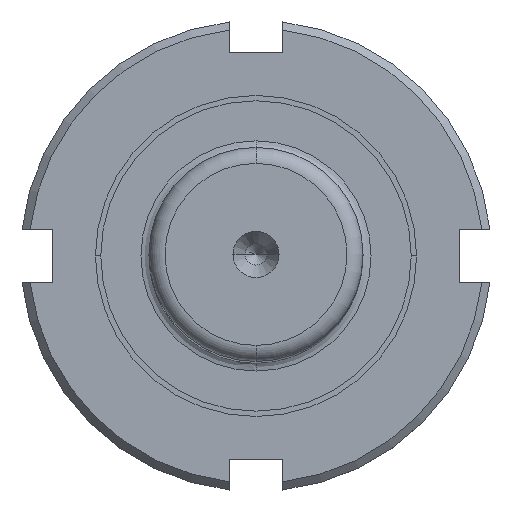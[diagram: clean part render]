
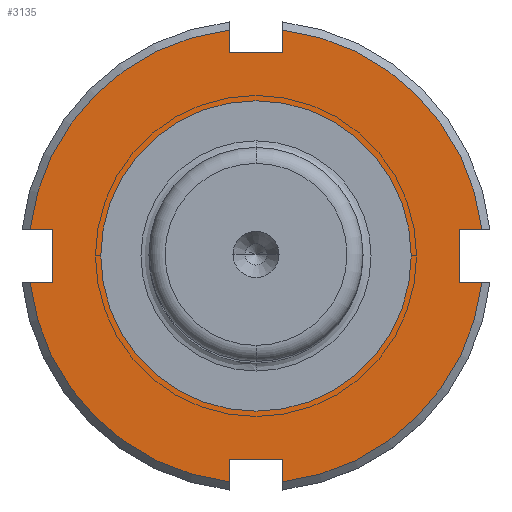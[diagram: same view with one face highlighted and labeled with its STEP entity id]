
A CAD part, top view. The second image highlights one B-rep face of the part: STEP entity #3135.
In plain terms, the highlighted planar face has unit normal (0, 0, 1).
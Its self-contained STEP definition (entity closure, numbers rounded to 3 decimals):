
#2227=CARTESIAN_POINT('',(0.0,14.5,26.0));
#2228=VERTEX_POINT('',#2227);
#2244=CARTESIAN_POINT('',(0.,-14.5,26.0));
#2245=VERTEX_POINT('',#2244);
#2252=CARTESIAN_POINT('',(0.0,0.0,26.0));
#2253=DIRECTION('',(0.0,0.0,-1.0));
#2254=DIRECTION('',(0.0,1.0,0.0));
#2255=AXIS2_PLACEMENT_3D('',#2252,#2253,#2254);
#2256=CIRCLE('',#2255,14.5);
#2257=EDGE_CURVE('',#2228,#2245,#2256,.T.);
#2292=CARTESIAN_POINT('',(-19.0,2.5,26.));
#2293=VERTEX_POINT('',#2292);
#2300=CARTESIAN_POINT('',(-21.102,2.5,26.0));
#2301=VERTEX_POINT('',#2300);
#2302=CARTESIAN_POINT('',(-21.102,2.5,26.0));
#2303=DIRECTION('',(1.0,0.0,0.0));
#2304=VECTOR('',#2303,2.102);
#2305=LINE('',#2302,#2304);
#2306=EDGE_CURVE('',#2301,#2293,#2305,.T.);
#2362=CARTESIAN_POINT('',(-21.102,-2.5,26.));
#2363=VERTEX_POINT('',#2362);
#2377=CARTESIAN_POINT('',(-19.0,-2.5,26.));
#2378=VERTEX_POINT('',#2377);
#2379=CARTESIAN_POINT('',(-19.0,-2.5,26.));
#2380=DIRECTION('',(-1.0,0.0,0.0));
#2381=VECTOR('',#2380,2.102);
#2382=LINE('',#2379,#2381);
#2383=EDGE_CURVE('',#2378,#2363,#2382,.T.);
#2414=CARTESIAN_POINT('',(-19.0,2.5,26.));
#2415=DIRECTION('',(0.0,-1.0,0.0));
#2416=VECTOR('',#2415,5.0);
#2417=LINE('',#2414,#2416);
#2418=EDGE_CURVE('',#2293,#2378,#2417,.T.);
#2454=CARTESIAN_POINT('',(-2.5,-19.0,26.0));
#2455=VERTEX_POINT('',#2454);
#2462=CARTESIAN_POINT('',(-2.5,-21.102,26.0));
#2463=VERTEX_POINT('',#2462);
#2464=CARTESIAN_POINT('',(-2.5,-21.102,26.0));
#2465=DIRECTION('',(0.0,1.0,0.0));
#2466=VECTOR('',#2465,2.102);
#2467=LINE('',#2464,#2466);
#2468=EDGE_CURVE('',#2463,#2455,#2467,.T.);
#2524=CARTESIAN_POINT('',(2.5,-21.102,26.0));
#2525=VERTEX_POINT('',#2524);
#2539=CARTESIAN_POINT('',(2.5,-19.0,26.0));
#2540=VERTEX_POINT('',#2539);
#2541=CARTESIAN_POINT('',(2.5,-19.0,26.0));
#2542=DIRECTION('',(0.0,-1.0,0.0));
#2543=VECTOR('',#2542,2.102);
#2544=LINE('',#2541,#2543);
#2545=EDGE_CURVE('',#2540,#2525,#2544,.T.);
#2576=CARTESIAN_POINT('',(-2.5,-19.0,26.0));
#2577=DIRECTION('',(1.0,0.0,0.0));
#2578=VECTOR('',#2577,5.0);
#2579=LINE('',#2576,#2578);
#2580=EDGE_CURVE('',#2455,#2540,#2579,.T.);
#2616=CARTESIAN_POINT('',(19.0,-2.5,26.));
#2617=VERTEX_POINT('',#2616);
#2624=CARTESIAN_POINT('',(21.102,-2.5,26.0));
#2625=VERTEX_POINT('',#2624);
#2626=CARTESIAN_POINT('',(21.102,-2.5,26.0));
#2627=DIRECTION('',(-1.0,0.0,0.0));
#2628=VECTOR('',#2627,2.102);
#2629=LINE('',#2626,#2628);
#2630=EDGE_CURVE('',#2625,#2617,#2629,.T.);
#2686=CARTESIAN_POINT('',(21.102,2.5,26.0));
#2687=VERTEX_POINT('',#2686);
#2701=CARTESIAN_POINT('',(19.0,2.5,26.));
#2702=VERTEX_POINT('',#2701);
#2703=CARTESIAN_POINT('',(19.0,2.5,26.));
#2704=DIRECTION('',(1.0,0.0,0.0));
#2705=VECTOR('',#2704,2.102);
#2706=LINE('',#2703,#2705);
#2707=EDGE_CURVE('',#2702,#2687,#2706,.T.);
#2738=CARTESIAN_POINT('',(19.0,-2.5,26.));
#2739=DIRECTION('',(0.0,1.0,0.0));
#2740=VECTOR('',#2739,5.0);
#2741=LINE('',#2738,#2740);
#2742=EDGE_CURVE('',#2617,#2702,#2741,.T.);
#2778=CARTESIAN_POINT('',(2.5,19.0,26.0));
#2779=VERTEX_POINT('',#2778);
#2786=CARTESIAN_POINT('',(2.5,21.102,26.0));
#2787=VERTEX_POINT('',#2786);
#2788=CARTESIAN_POINT('',(2.5,21.102,26.0));
#2789=DIRECTION('',(0.0,-1.0,0.0));
#2790=VECTOR('',#2789,2.102);
#2791=LINE('',#2788,#2790);
#2792=EDGE_CURVE('',#2787,#2779,#2791,.T.);
#2848=CARTESIAN_POINT('',(-2.5,21.102,26.0));
#2849=VERTEX_POINT('',#2848);
#2863=CARTESIAN_POINT('',(-2.5,19.0,26.0));
#2864=VERTEX_POINT('',#2863);
#2865=CARTESIAN_POINT('',(-2.5,19.0,26.0));
#2866=DIRECTION('',(0.0,1.0,0.0));
#2867=VECTOR('',#2866,2.102);
#2868=LINE('',#2865,#2867);
#2869=EDGE_CURVE('',#2864,#2849,#2868,.T.);
#2900=CARTESIAN_POINT('',(2.5,19.0,26.0));
#2901=DIRECTION('',(-1.0,0.0,0.0));
#2902=VECTOR('',#2901,5.0);
#2903=LINE('',#2900,#2902);
#2904=EDGE_CURVE('',#2779,#2864,#2903,.T.);
#3078=CARTESIAN_POINT('',(0.0,17.875,26.0));
#3079=DIRECTION('',(0.0,0.0,1.0));
#3080=DIRECTION('',(1.0,0.0,0.0));
#3081=AXIS2_PLACEMENT_3D('',#3078,#3079,#3080);
#3082=PLANE('',#3081);
#3083=ORIENTED_EDGE('',*,*,#2306,.T.);
#3084=ORIENTED_EDGE('',*,*,#2418,.T.);
#3085=ORIENTED_EDGE('',*,*,#2383,.T.);
#3086=CARTESIAN_POINT('',(0.0,0.0,26.0));
#3087=DIRECTION('',(0.0,0.0,-1.0));
#3088=DIRECTION('',(0.0,1.0,0.0));
#3089=AXIS2_PLACEMENT_3D('',#3086,#3087,#3088);
#3090=CIRCLE('',#3089,21.25);
#3091=EDGE_CURVE('',#2463,#2363,#3090,.T.);
#3092=ORIENTED_EDGE('',*,*,#3091,.F.);
#3093=ORIENTED_EDGE('',*,*,#2468,.T.);
#3094=ORIENTED_EDGE('',*,*,#2580,.T.);
#3095=ORIENTED_EDGE('',*,*,#2545,.T.);
#3096=CARTESIAN_POINT('',(0.0,0.0,26.0));
#3097=DIRECTION('',(0.0,0.0,-1.0));
#3098=DIRECTION('',(0.0,1.0,0.0));
#3099=AXIS2_PLACEMENT_3D('',#3096,#3097,#3098);
#3100=CIRCLE('',#3099,21.25);
#3101=EDGE_CURVE('',#2625,#2525,#3100,.T.);
#3102=ORIENTED_EDGE('',*,*,#3101,.F.);
#3103=ORIENTED_EDGE('',*,*,#2630,.T.);
#3104=ORIENTED_EDGE('',*,*,#2742,.T.);
#3105=ORIENTED_EDGE('',*,*,#2707,.T.);
#3106=CARTESIAN_POINT('',(0.0,0.0,26.0));
#3107=DIRECTION('',(0.0,0.0,-1.0));
#3108=DIRECTION('',(0.0,1.0,0.0));
#3109=AXIS2_PLACEMENT_3D('',#3106,#3107,#3108);
#3110=CIRCLE('',#3109,21.25);
#3111=EDGE_CURVE('',#2787,#2687,#3110,.T.);
#3112=ORIENTED_EDGE('',*,*,#3111,.F.);
#3113=ORIENTED_EDGE('',*,*,#2792,.T.);
#3114=ORIENTED_EDGE('',*,*,#2904,.T.);
#3115=ORIENTED_EDGE('',*,*,#2869,.T.);
#3116=CARTESIAN_POINT('',(0.0,0.0,26.0));
#3117=DIRECTION('',(0.0,0.0,-1.0));
#3118=DIRECTION('',(0.0,1.0,0.0));
#3119=AXIS2_PLACEMENT_3D('',#3116,#3117,#3118);
#3120=CIRCLE('',#3119,21.25);
#3121=EDGE_CURVE('',#2301,#2849,#3120,.T.);
#3122=ORIENTED_EDGE('',*,*,#3121,.F.);
#3123=EDGE_LOOP('',(#3083,#3084,#3085,#3092,#3093,#3094,#3095,#3102,#3103,#3104,#3105,#3112,#3113,#3114,#3115,#3122));
#3124=FACE_OUTER_BOUND('',#3123,.T.);
#3125=ORIENTED_EDGE('',*,*,#2257,.T.);
#3126=CARTESIAN_POINT('',(0.0,0.0,26.0));
#3127=DIRECTION('',(0.0,0.0,-1.0));
#3128=DIRECTION('',(0.0,1.0,0.0));
#3129=AXIS2_PLACEMENT_3D('',#3126,#3127,#3128);
#3130=CIRCLE('',#3129,14.5);
#3131=EDGE_CURVE('',#2245,#2228,#3130,.T.);
#3132=ORIENTED_EDGE('',*,*,#3131,.T.);
#3133=EDGE_LOOP('',(#3125,#3132));
#3134=FACE_BOUND('',#3133,.T.);
#3135=ADVANCED_FACE('',(#3124,#3134),#3082,.T.);
